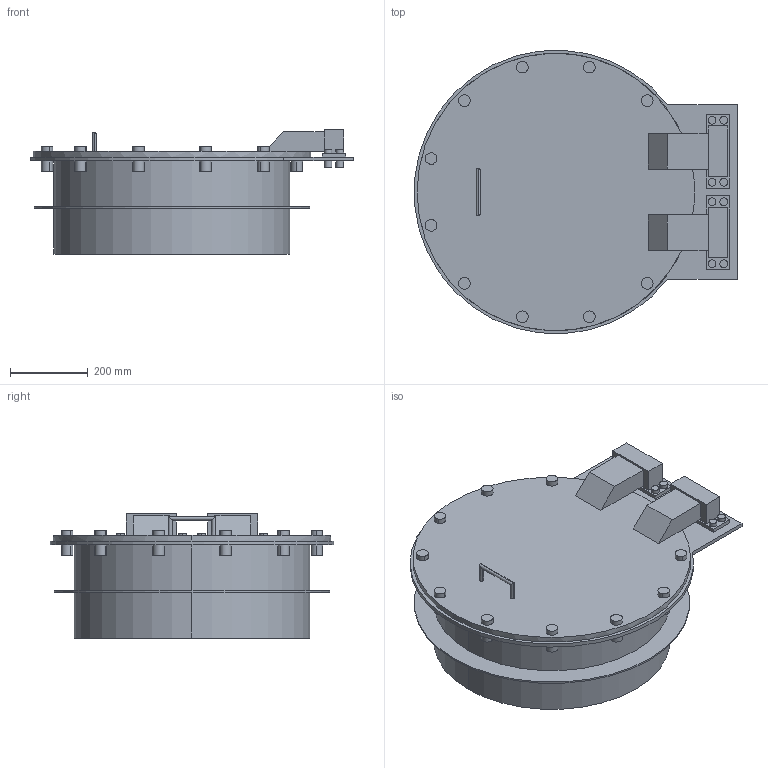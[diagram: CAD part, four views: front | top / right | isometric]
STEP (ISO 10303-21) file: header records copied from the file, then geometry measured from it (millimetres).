
FILE_DESCRIPTION((''),'2;1');
FILE_NAME('52218263','2024-03-21T09:06:10',('ka'),('HUBER SE'),'CREO PARAMETRIC BY PTC INC, 2022162','CREO PARAMETRIC BY PTC INC, 2022162','');
FILE_SCHEMA(('AUTOMOTIVE_DESIGN { 1 0 10303 214 1 1 1 1 }'));
Length unit declared in the file: millimetre
Products named in the file (1): 52218263
Bounding box: 832.17 x 729.97 x 320 mm (x, y, z)
Volume: 12827621 mm3; surface area: 2312831.5 mm2
Topology: 1 solids, 1 shells, 171 faces, 368 edges, 244 vertices
Faces by surface type: cylinder 93, plane 78
Entity records: 6451 total; most frequent: CARTESIAN_POINT 949, DIRECTION 884, ORIENTED_EDGE 736, EDGE_CURVE 368, AXIS2_PLACEMENT_3D 353, VERTEX_POINT 244, EDGE_LOOP 222, CIRCLE 182
